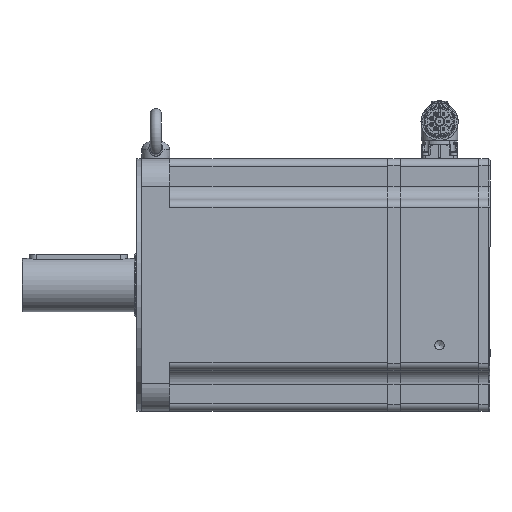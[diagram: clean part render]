
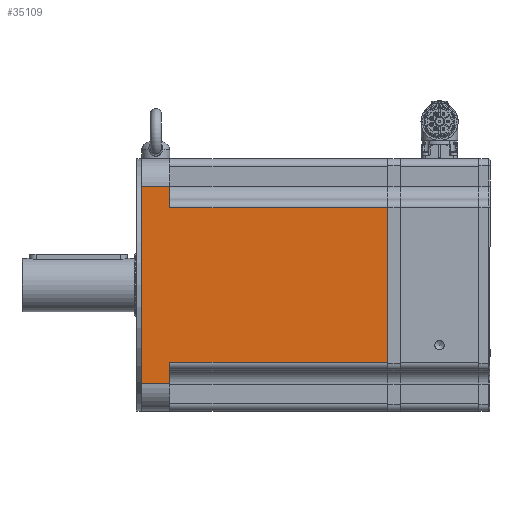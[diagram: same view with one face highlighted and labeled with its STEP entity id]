
A CAD part, left-side view. The second image highlights one B-rep face of the part: STEP entity #35109.
In plain terms, the highlighted planar face has unit normal (-1, 0, 0) as drawn and (1, 0, 0) by its records, which use the part's own axes.
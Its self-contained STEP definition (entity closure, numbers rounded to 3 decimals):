
#1029=PLANE('',#37657);
#4110=LINE('',#59668,#5711);
#4124=LINE('',#59755,#5725);
#4131=LINE('',#59806,#5732);
#4139=LINE('',#59830,#5740);
#4140=LINE('',#59831,#5741);
#4141=LINE('',#59833,#5742);
#4142=LINE('',#59835,#5743);
#4143=LINE('',#59836,#5744);
#5711=VECTOR('',#44010,1000.);
#5725=VECTOR('',#44094,1000.);
#5732=VECTOR('',#44147,1000.);
#5740=VECTOR('',#44171,1000.);
#5741=VECTOR('',#44172,1000.);
#5742=VECTOR('',#44173,1000.);
#5743=VECTOR('',#44174,1000.);
#5744=VECTOR('',#44175,1000.);
#12519=ORIENTED_EDGE('',*,*,#16085,.F.);
#12520=ORIENTED_EDGE('',*,*,#16157,.T.);
#12521=ORIENTED_EDGE('',*,*,#16123,.F.);
#12522=ORIENTED_EDGE('',*,*,#16158,.T.);
#12523=ORIENTED_EDGE('',*,*,#16159,.F.);
#12524=ORIENTED_EDGE('',*,*,#16160,.T.);
#12525=ORIENTED_EDGE('',*,*,#16145,.F.);
#12526=ORIENTED_EDGE('',*,*,#16161,.T.);
#16085=EDGE_CURVE('',#18514,#18515,#4110,.T.);
#16123=EDGE_CURVE('',#18552,#18553,#4124,.T.);
#16145=EDGE_CURVE('',#18574,#18575,#4131,.T.);
#16157=EDGE_CURVE('',#18514,#18553,#4139,.F.);
#16158=EDGE_CURVE('',#18552,#18582,#4140,.T.);
#16159=EDGE_CURVE('',#18583,#18582,#4141,.T.);
#16160=EDGE_CURVE('',#18583,#18575,#4142,.F.);
#16161=EDGE_CURVE('',#18574,#18515,#4143,.T.);
#18514=VERTEX_POINT('',#59667);
#18515=VERTEX_POINT('',#59669);
#18552=VERTEX_POINT('',#59754);
#18553=VERTEX_POINT('',#59756);
#18574=VERTEX_POINT('',#59807);
#18575=VERTEX_POINT('',#59808);
#18582=VERTEX_POINT('',#59832);
#18583=VERTEX_POINT('',#59834);
#21188=EDGE_LOOP('',(#12519,#12520,#12521,#12522,#12523,#12524,#12525,#12526));
#23219=FACE_BOUND('',#21188,.T.);
#35109=ADVANCED_FACE('',(#23219),#1029,.T.);
#37657=AXIS2_PLACEMENT_3D('',#59829,#44169,#44170);
#44010=DIRECTION('',(0.,0.,-1.));
#44094=DIRECTION('',(0.,0.,-1.));
#44147=DIRECTION('',(0.,0.,-1.));
#44169=DIRECTION('',(1.,0.,0.));
#44170=DIRECTION('',(0.,1.,0.));
#44171=DIRECTION('',(0.,1.,0.));
#44172=DIRECTION('',(0.,-1.,0.));
#44173=DIRECTION('',(0.,0.,1.));
#44174=DIRECTION('',(0.,-1.,0.));
#44175=DIRECTION('',(0.,1.,0.));
#59667=CARTESIAN_POINT('',(90.,176.8,55.2));
#59668=CARTESIAN_POINT('',(90.,176.8,-90.));
#59669=CARTESIAN_POINT('',(90.,176.8,-55.2));
#59754=CARTESIAN_POINT('',(90.,21.3,70.));
#59755=CARTESIAN_POINT('',(90.,21.3,-90.));
#59756=CARTESIAN_POINT('',(90.,21.3,55.2));
#59806=CARTESIAN_POINT('',(90.,21.3,-90.));
#59807=CARTESIAN_POINT('',(90.,21.3,-55.2));
#59808=CARTESIAN_POINT('',(90.,21.3,-70.));
#59829=CARTESIAN_POINT('',(90.,491.763,-90.));
#59830=CARTESIAN_POINT('',(90.,491.763,55.2));
#59831=CARTESIAN_POINT('',(90.,491.763,70.));
#59832=CARTESIAN_POINT('',(90.,1.3,70.));
#59833=CARTESIAN_POINT('',(90.,1.3,-90.));
#59834=CARTESIAN_POINT('',(90.,1.3,-70.));
#59835=CARTESIAN_POINT('',(90.,491.763,-70.));
#59836=CARTESIAN_POINT('',(90.,491.763,-55.2));
